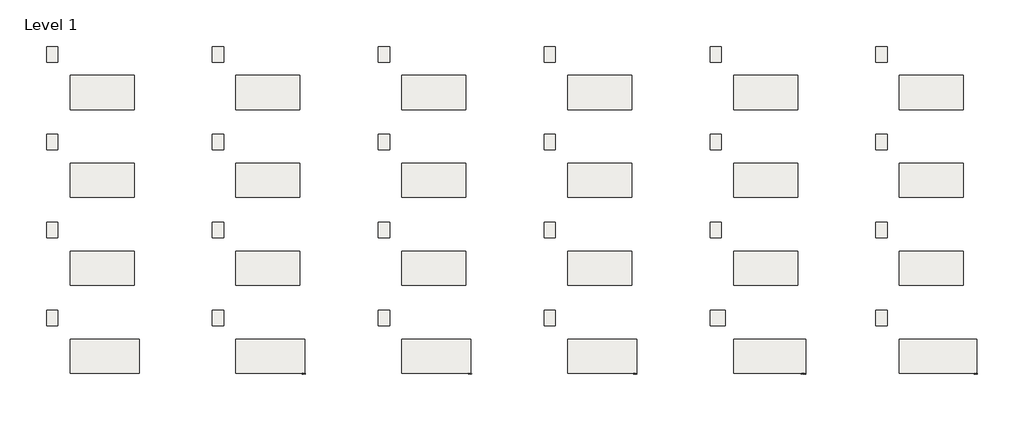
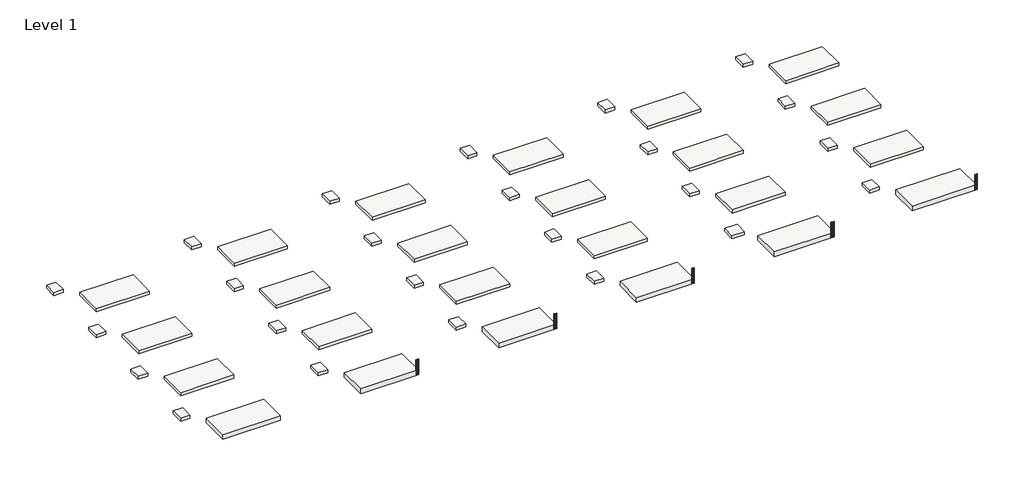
# One storey, incomplete: 48 slabs, 5 railings.
"""IFC4 building model written with IfcOpenShell, lengths in millimetres."""

from ifc_helpers import new_model, si_unit, origin, place, context, project, spatial, faceted_brep, transform, mapped, element, save
from components import viva_baluster_corner_metal_picket_or1_133d1216, viva_baluster_corner_metal_picket_or1_06276dca, viva_baluster_corner_metal_picket_or1_3f157a00, viva_baluster_corner_metal_picket_or2_3bf7f570, viva_baluster_corner_metal_picket_or2_038a49f5, viva_baluster_corner_metal_picket_or2_d11bb3fe, viva_baluster_corner_metal_picket_or3_238191d5, viva_baluster_corner_metal_picket_or3_b6fd80f2, viva_baluster_corner_metal_picket_or4_cd2baefe, viva_baluster_corner_metal_picket_or4_ba183751, viva_baluster_corner_metal_picket_or4_408f65ec, viva_baluster_corner_metal_picket_or4_8cd8b7c1, viva_baluster_corner_metal_picket_or5_769cadf6, viva_baluster_corner_metal_picket_or5_7f4c381b, viva_baluster_corner_metal_picket_or5_473d95c6

model = new_model("IFC4")

# Units and contexts
model_context = context("Model", 3, world=origin())
ifc_project = project(units=[si_unit("LENGTHUNIT", "METRE", prefix="MILLI")], contexts=[model_context])

# Site, building, storey
site = spatial("IfcSite", under=ifc_project)
building = spatial("IfcBuilding", under=site)
storey = spatial("IfcBuildingStorey", under=building, Name="Level 1", Elevation=0.0)

# Railings
placement = place(None, origin())
viva_baluster_corner_metal_picket_or1_shape = viva_baluster_corner_metal_picket_or1_133d1216(model_context)
viva_baluster_corner_metal_picket_or1_2_shape = viva_baluster_corner_metal_picket_or1_06276dca(model_context)
viva_baluster_corner_metal_picket_or1_3_shape = viva_baluster_corner_metal_picket_or1_3f157a00(model_context)
element("IfcRailing", 1, ObjectType="VIVA-Baluster-Corner-Metal_Picket : OR1", at=placement, inside=storey, context=model_context, shape_type="MappedRepresentation", body=[
    mapped(viva_baluster_corner_metal_picket_or1_shape, transform((17145.390109, -20977.8416701, -155.5524983), x_axis=(0.0, 1.0, 0.0), y_axis=(-1.0, 0.0, 0.0), z_axis=(0.0, 0.0, 1.0))),
    mapped(viva_baluster_corner_metal_picket_or1_2_shape, transform((17145.390109, -20977.8416701, -155.5524983), x_axis=(0.0, 1.0, 0.0), y_axis=(-1.0, 0.0, 0.0), z_axis=(0.0, 0.0, 1.0))),
    mapped(viva_baluster_corner_metal_picket_or1_3_shape, transform((17145.390109, -20977.8416701, -155.5524983), x_axis=(0.0, 1.0, 0.0), y_axis=(-1.0, 0.0, 0.0), z_axis=(0.0, 0.0, 1.0))),
])
viva_baluster_corner_metal_picket_or2_shape = viva_baluster_corner_metal_picket_or2_3bf7f570(model_context)
viva_baluster_corner_metal_picket_or2_2_shape = viva_baluster_corner_metal_picket_or2_038a49f5(model_context)
viva_baluster_corner_metal_picket_or2_3_shape = viva_baluster_corner_metal_picket_or2_d11bb3fe(model_context)
element("IfcRailing", 2, ObjectType="VIVA-Baluster-Corner-Metal_Picket : OR2", at=placement, inside=storey, context=model_context, shape_type="MappedRepresentation", body=[
    mapped(viva_baluster_corner_metal_picket_or2_shape, transform((29788.740109, -20977.8416701, -155.5524983), x_axis=(0.0, 1.0, 0.0), y_axis=(-1.0, 0.0, 0.0), z_axis=(0.0, 0.0, 1.0))),
    mapped(viva_baluster_corner_metal_picket_or2_2_shape, transform((29788.740109, -20977.8416701, -155.5524983), x_axis=(0.0, 1.0, 0.0), y_axis=(-1.0, 0.0, 0.0), z_axis=(0.0, 0.0, 1.0))),
    mapped(viva_baluster_corner_metal_picket_or2_3_shape, transform((29788.740109, -20977.8416701, -155.5524983), x_axis=(0.0, 1.0, 0.0), y_axis=(-1.0, 0.0, 0.0), z_axis=(0.0, 0.0, 1.0))),
])
viva_baluster_corner_metal_picket_or3_shape = viva_baluster_corner_metal_picket_or3_238191d5(model_context)
viva_baluster_corner_metal_picket_or3_2_shape = viva_baluster_corner_metal_picket_or3_b6fd80f2(model_context)
element("IfcRailing", 3, ObjectType="VIVA-Baluster-Corner-Metal_Picket : OR3", at=placement, inside=storey, context=model_context, shape_type="MappedRepresentation", body=[
    mapped(viva_baluster_corner_metal_picket_or3_shape, transform((42434.765109, -20977.8416701, -155.5524983), x_axis=(0.0, 1.0, 0.0), y_axis=(-1.0, 0.0, 0.0), z_axis=(0.0, 0.0, 1.0))),
    mapped(viva_baluster_corner_metal_picket_or3_2_shape, transform((42434.765109, -20977.8416701, -155.5524983), x_axis=(0.0, 1.0, 0.0), y_axis=(-1.0, 0.0, 0.0), z_axis=(0.0, 0.0, 1.0))),
    mapped(viva_baluster_corner_metal_picket_or1_3_shape, transform((42434.765109, -20977.8416701, -155.5524983), x_axis=(0.0, 1.0, 0.0), y_axis=(-1.0, 0.0, 0.0), z_axis=(0.0, 0.0, 1.0))),
])
viva_baluster_corner_metal_picket_or4_shape = viva_baluster_corner_metal_picket_or4_cd2baefe(model_context)
viva_baluster_corner_metal_picket_or4_2_shape = viva_baluster_corner_metal_picket_or4_ba183751(model_context)
viva_baluster_corner_metal_picket_or4_3_shape = viva_baluster_corner_metal_picket_or4_408f65ec(model_context)
viva_baluster_corner_metal_picket_or4_4_shape = viva_baluster_corner_metal_picket_or4_8cd8b7c1(model_context)
element("IfcRailing", 4, ObjectType="VIVA-Baluster-Corner-Metal_Picket : OR4", at=placement, inside=storey, context=model_context, shape_type="MappedRepresentation", body=[
    mapped(viva_baluster_corner_metal_picket_or4_shape, transform((55295.6847258, -20977.8416701, -155.5524983), x_axis=(0.0, 1.0, 0.0), y_axis=(-1.0, 0.0, 0.0), z_axis=(0.0, 0.0, 1.0))),
    mapped(viva_baluster_corner_metal_picket_or4_2_shape, transform((55295.6847258, -20977.8416701, -155.5524983), x_axis=(0.0, 1.0, 0.0), y_axis=(-1.0, 0.0, 0.0), z_axis=(0.0, 0.0, 1.0))),
    mapped(viva_baluster_corner_metal_picket_or4_3_shape, transform((55295.6847258, -20977.8416701, -155.5524983), x_axis=(0.0, 1.0, 0.0), y_axis=(-1.0, 0.0, 0.0), z_axis=(0.0, 0.0, 1.0))),
    mapped(viva_baluster_corner_metal_picket_or4_4_shape, transform((55295.6847258, -20977.8416701, -155.5524983), x_axis=(0.0, 1.0, 0.0), y_axis=(-1.0, 0.0, 0.0), z_axis=(0.0, 0.0, 1.0))),
])
viva_baluster_corner_metal_picket_or5_shape = viva_baluster_corner_metal_picket_or5_769cadf6(model_context)
viva_baluster_corner_metal_picket_or5_2_shape = viva_baluster_corner_metal_picket_or5_7f4c381b(model_context)
viva_baluster_corner_metal_picket_or5_3_shape = viva_baluster_corner_metal_picket_or5_473d95c6(model_context)
element("IfcRailing", 5, ObjectType="VIVA-Baluster-Corner-Metal_Picket : OR5", at=placement, inside=storey, context=model_context, shape_type="MappedRepresentation", body=[
    mapped(viva_baluster_corner_metal_picket_or5_shape, transform((68476.115109, -20977.8416701, -155.5524983), x_axis=(0.0, 1.0, 0.0), y_axis=(-1.0, 0.0, 0.0), z_axis=(0.0, 0.0, 1.0))),
    mapped(viva_baluster_corner_metal_picket_or5_2_shape, transform((68476.115109, -20977.8416701, -155.5524983), x_axis=(0.0, 1.0, 0.0), y_axis=(-1.0, 0.0, 0.0), z_axis=(0.0, 0.0, 1.0))),
    mapped(viva_baluster_corner_metal_picket_or5_3_shape, transform((68476.115109, -20977.8416701, -155.5524983), x_axis=(0.0, 1.0, 0.0), y_axis=(-1.0, 0.0, 0.0), z_axis=(0.0, 0.0, 1.0))),
])

# Slabs
element("IfcSlab", 6, ObjectType="_FLOOR 21", at=placement, inside=storey, context=model_context, shape_type="Brep", body=[
    faceted_brep([(4020.7958865, -7505.0920212, -292.1), (-856.0041135, -7505.0920212, -292.1), (-856.0041135, -4888.8920212, -292.1), (4020.7958865, -4888.8920212, -292.1), (4020.7958865, -7505.0920212, 0.0), (4020.7958865, -4888.8920212, 0.0), (-856.0041135, -4888.8920212, 0.0), (-856.0041135, -7505.0920212, 0.0)], [[[0, 1, 2, 3]], [[4, 5, 6, 7]], [[1, 0, 4, 7]], [[2, 1, 7, 6]], [[3, 2, 6, 5]], [[0, 3, 5, 4]]]),
])
element("IfcSlab", 7, ObjectType="_FLOOR 21", at=placement, inside=storey, context=model_context, shape_type="Brep", body=[
    faceted_brep([(-1787.3899939, -3883.4242977, -292.1), (-2650.9899939, -3883.4242977, -292.1), (-2650.9899939, -2701.8242977, -292.1), (-1787.3899939, -2701.8242977, -292.1), (-1787.3899939, -3883.4242977, 0.0), (-1787.3899939, -2701.8242977, 0.0), (-2650.9899939, -2701.8242977, 0.0), (-2650.9899939, -3883.4242977, 0.0)], [[[0, 1, 2, 3]], [[4, 5, 6, 7]], [[1, 0, 4, 7]], [[2, 1, 7, 6]], [[3, 2, 6, 5]], [[0, 3, 5, 4]]]),
])
element("IfcSlab", 8, ObjectType="_FLOOR 21", at=placement, inside=storey, context=model_context, shape_type="Brep", body=[
    faceted_brep([(-1787.3899939, 2822.1757023, -292.1), (-2650.9899939, 2822.1757023, -292.1), (-2650.9899939, 4003.7757023, -292.1), (-1787.3899939, 4003.7757023, -292.1), (-1787.3899939, 2822.1757023, 0.0), (-1787.3899939, 4003.7757023, 0.0), (-2650.9899939, 4003.7757023, 0.0), (-2650.9899939, 2822.1757023, 0.0)], [[[0, 1, 2, 3]], [[4, 5, 6, 7]], [[1, 0, 4, 7]], [[2, 1, 7, 6]], [[3, 2, 6, 5]], [[0, 3, 5, 4]]]),
])
element("IfcSlab", 9, ObjectType="_FLOOR 21", at=placement, inside=storey, context=model_context, shape_type="Brep", body=[
    faceted_brep([(4020.7958865, -799.4920212, -292.1), (-856.0041135, -799.4920212, -292.1), (-856.0041135, 1816.7079788, -292.1), (4020.7958865, 1816.7079788, -292.1), (4020.7958865, -799.4920212, 0.0), (4020.7958865, 1816.7079788, 0.0), (-856.0041135, 1816.7079788, 0.0), (-856.0041135, -799.4920212, 0.0)], [[[0, 1, 2, 3]], [[4, 5, 6, 7]], [[1, 0, 4, 7]], [[2, 1, 7, 6]], [[3, 2, 6, 5]], [[0, 3, 5, 4]]]),
])
element("IfcSlab", 10, ObjectType="_FLOOR 21", at=placement, inside=storey, context=model_context, shape_type="Brep", body=[
    faceted_brep([(4020.7958865, -14210.6920212, -292.1), (-856.0041135, -14210.6920212, -292.1), (-856.0041135, -11594.4920212, -292.1), (4020.7958865, -11594.4920212, -292.1), (4020.7958865, -14210.6920212, 0.0), (4020.7958865, -11594.4920212, 0.0), (-856.0041135, -11594.4920212, 0.0), (-856.0041135, -14210.6920212, 0.0)], [[[0, 1, 2, 3]], [[4, 5, 6, 7]], [[1, 0, 4, 7]], [[2, 1, 7, 6]], [[3, 2, 6, 5]], [[0, 3, 5, 4]]]),
])
element("IfcSlab", 11, ObjectType="_FLOOR 21", at=placement, inside=storey, context=model_context, shape_type="Brep", body=[
    faceted_brep([(-1787.3899939, -10589.0242977, -292.1), (-2650.9899939, -10589.0242977, -292.1), (-2650.9899939, -9407.4242977, -292.1), (-1787.3899939, -9407.4242977, -292.1), (-1787.3899939, -10589.0242977, 0.0), (-1787.3899939, -9407.4242977, 0.0), (-2650.9899939, -9407.4242977, 0.0), (-2650.9899939, -10589.0242977, 0.0)], [[[0, 1, 2, 3]], [[4, 5, 6, 7]], [[1, 0, 4, 7]], [[2, 1, 7, 6]], [[3, 2, 6, 5]], [[0, 3, 5, 4]]]),
])
element("IfcSlab", 12, ObjectType="_FLOOR 21", at=placement, inside=storey, context=model_context, shape_type="Brep", body=[
    faceted_brep([(-1787.3899939, -17294.6242977, -292.1), (-2650.9899939, -17294.6242977, -292.1), (-2650.9899939, -16113.0242977, -292.1), (-1787.3899939, -16113.0242977, -292.1), (-1787.3899939, -17294.6242977, 0.0), (-1787.3899939, -16113.0242977, 0.0), (-2650.9899939, -16113.0242977, 0.0), (-2650.9899939, -17294.6242977, 0.0)], [[[0, 1, 2, 3]], [[4, 5, 6, 7]], [[1, 0, 4, 7]], [[2, 1, 7, 6]], [[3, 2, 6, 5]], [[0, 3, 5, 4]]]),
])
element("IfcSlab", 13, ObjectType="_FLOOR 21", at=placement, inside=storey, context=model_context, shape_type="Brep", body=[
    faceted_brep([(16669.9958865, -7505.0920212, -292.1), (11793.1958865, -7505.0920212, -292.1), (11793.1958865, -4888.8920212, -292.1), (16669.9958865, -4888.8920212, -292.1), (16669.9958865, -7505.0920212, 0.0), (16669.9958865, -4888.8920212, 0.0), (11793.1958865, -4888.8920212, 0.0), (11793.1958865, -7505.0920212, 0.0)], [[[0, 1, 2, 3]], [[4, 5, 6, 7]], [[1, 0, 4, 7]], [[2, 1, 7, 6]], [[3, 2, 6, 5]], [[0, 3, 5, 4]]]),
])
element("IfcSlab", 14, ObjectType="_FLOOR 21", at=placement, inside=storey, context=model_context, shape_type="Brep", body=[
    faceted_brep([(10861.8100061, -3883.4242977, -292.1), (9998.2100061, -3883.4242977, -292.1), (9998.2100061, -2701.8242977, -292.1), (10861.8100061, -2701.8242977, -292.1), (10861.8100061, -3883.4242977, 0.0), (10861.8100061, -2701.8242977, 0.0), (9998.2100061, -2701.8242977, 0.0), (9998.2100061, -3883.4242977, 0.0)], [[[0, 1, 2, 3]], [[4, 5, 6, 7]], [[1, 0, 4, 7]], [[2, 1, 7, 6]], [[3, 2, 6, 5]], [[0, 3, 5, 4]]]),
])
element("IfcSlab", 15, ObjectType="_FLOOR 21", at=placement, inside=storey, context=model_context, shape_type="Brep", body=[
    faceted_brep([(10861.8100061, 2822.1757023, -292.1), (9998.2100061, 2822.1757023, -292.1), (9998.2100061, 4003.7757023, -292.1), (10861.8100061, 4003.7757023, -292.1), (10861.8100061, 2822.1757023, 0.0), (10861.8100061, 4003.7757023, 0.0), (9998.2100061, 4003.7757023, 0.0), (9998.2100061, 2822.1757023, 0.0)], [[[0, 1, 2, 3]], [[4, 5, 6, 7]], [[1, 0, 4, 7]], [[2, 1, 7, 6]], [[3, 2, 6, 5]], [[0, 3, 5, 4]]]),
])
element("IfcSlab", 16, ObjectType="_FLOOR 21", at=placement, inside=storey, context=model_context, shape_type="Brep", body=[
    faceted_brep([(16669.9958865, -799.4920212, -292.1), (11793.1958865, -799.4920212, -292.1), (11793.1958865, 1816.7079788, -292.1), (16669.9958865, 1816.7079788, -292.1), (16669.9958865, -799.4920212, 0.0), (16669.9958865, 1816.7079788, 0.0), (11793.1958865, 1816.7079788, 0.0), (11793.1958865, -799.4920212, 0.0)], [[[0, 1, 2, 3]], [[4, 5, 6, 7]], [[1, 0, 4, 7]], [[2, 1, 7, 6]], [[3, 2, 6, 5]], [[0, 3, 5, 4]]]),
])
element("IfcSlab", 17, ObjectType="_FLOOR 21", at=placement, inside=storey, context=model_context, shape_type="Brep", body=[
    faceted_brep([(16669.9958865, -14210.6920212, -292.1), (11793.1958865, -14210.6920212, -292.1), (11793.1958865, -11594.4920212, -292.1), (16669.9958865, -11594.4920212, -292.1), (16669.9958865, -14210.6920212, 0.0), (16669.9958865, -11594.4920212, 0.0), (11793.1958865, -11594.4920212, 0.0), (11793.1958865, -14210.6920212, 0.0)], [[[0, 1, 2, 3]], [[4, 5, 6, 7]], [[1, 0, 4, 7]], [[2, 1, 7, 6]], [[3, 2, 6, 5]], [[0, 3, 5, 4]]]),
])
element("IfcSlab", 18, ObjectType="_FLOOR 21", at=placement, inside=storey, context=model_context, shape_type="Brep", body=[
    faceted_brep([(10861.8100061, -10589.0242977, -292.1), (9998.2100061, -10589.0242977, -292.1), (9998.2100061, -9407.4242977, -292.1), (10861.8100061, -9407.4242977, -292.1), (10861.8100061, -10589.0242977, 0.0), (10861.8100061, -9407.4242977, 0.0), (9998.2100061, -9407.4242977, 0.0), (9998.2100061, -10589.0242977, 0.0)], [[[0, 1, 2, 3]], [[4, 5, 6, 7]], [[1, 0, 4, 7]], [[2, 1, 7, 6]], [[3, 2, 6, 5]], [[0, 3, 5, 4]]]),
])
element("IfcSlab", 19, ObjectType="_FLOOR 21", at=placement, inside=storey, context=model_context, shape_type="Brep", body=[
    faceted_brep([(10861.8100061, -17294.6242977, -292.1), (9998.2100061, -17294.6242977, -292.1), (9998.2100061, -16113.0242977, -292.1), (10861.8100061, -16113.0242977, -292.1), (10861.8100061, -17294.6242977, 0.0), (10861.8100061, -16113.0242977, 0.0), (9998.2100061, -16113.0242977, 0.0), (9998.2100061, -17294.6242977, 0.0)], [[[0, 1, 2, 3]], [[4, 5, 6, 7]], [[1, 0, 4, 7]], [[2, 1, 7, 6]], [[3, 2, 6, 5]], [[0, 3, 5, 4]]]),
])
element("IfcSlab", 20, ObjectType="_FLOOR 21", at=placement, inside=storey, context=model_context, shape_type="Brep", body=[
    faceted_brep([(29319.1958865, -7505.0920212, -292.1), (24442.3958865, -7505.0920212, -292.1), (24442.3958865, -4888.8920212, -292.1), (29319.1958865, -4888.8920212, -292.1), (29319.1958865, -7505.0920212, 0.0), (29319.1958865, -4888.8920212, 0.0), (24442.3958865, -4888.8920212, 0.0), (24442.3958865, -7505.0920212, 0.0)], [[[0, 1, 2, 3]], [[4, 5, 6, 7]], [[1, 0, 4, 7]], [[2, 1, 7, 6]], [[3, 2, 6, 5]], [[0, 3, 5, 4]]]),
])
element("IfcSlab", 21, ObjectType="_FLOOR 21", at=placement, inside=storey, context=model_context, shape_type="Brep", body=[
    faceted_brep([(23511.0100061, -3883.4242977, -292.1), (22647.4100061, -3883.4242977, -292.1), (22647.4100061, -2701.8242977, -292.1), (23511.0100061, -2701.8242977, -292.1), (23511.0100061, -3883.4242977, 0.0), (23511.0100061, -2701.8242977, 0.0), (22647.4100061, -2701.8242977, 0.0), (22647.4100061, -3883.4242977, 0.0)], [[[0, 1, 2, 3]], [[4, 5, 6, 7]], [[1, 0, 4, 7]], [[2, 1, 7, 6]], [[3, 2, 6, 5]], [[0, 3, 5, 4]]]),
])
element("IfcSlab", 22, ObjectType="_FLOOR 21", at=placement, inside=storey, context=model_context, shape_type="Brep", body=[
    faceted_brep([(23511.0100061, 2822.1757023, -292.1), (22647.4100061, 2822.1757023, -292.1), (22647.4100061, 4003.7757023, -292.1), (23511.0100061, 4003.7757023, -292.1), (23511.0100061, 2822.1757023, 0.0), (23511.0100061, 4003.7757023, 0.0), (22647.4100061, 4003.7757023, 0.0), (22647.4100061, 2822.1757023, 0.0)], [[[0, 1, 2, 3]], [[4, 5, 6, 7]], [[1, 0, 4, 7]], [[2, 1, 7, 6]], [[3, 2, 6, 5]], [[0, 3, 5, 4]]]),
])
element("IfcSlab", 23, ObjectType="_FLOOR 21", at=placement, inside=storey, context=model_context, shape_type="Brep", body=[
    faceted_brep([(29319.1958865, -799.4920212, -292.1), (24442.3958865, -799.4920212, -292.1), (24442.3958865, 1816.7079788, -292.1), (29319.1958865, 1816.7079788, -292.1), (29319.1958865, -799.4920212, 0.0), (29319.1958865, 1816.7079788, 0.0), (24442.3958865, 1816.7079788, 0.0), (24442.3958865, -799.4920212, 0.0)], [[[0, 1, 2, 3]], [[4, 5, 6, 7]], [[1, 0, 4, 7]], [[2, 1, 7, 6]], [[3, 2, 6, 5]], [[0, 3, 5, 4]]]),
])
element("IfcSlab", 24, ObjectType="_FLOOR 21", at=placement, inside=storey, context=model_context, shape_type="Brep", body=[
    faceted_brep([(29319.1958865, -14210.6920212, -292.1), (24442.3958865, -14210.6920212, -292.1), (24442.3958865, -11594.4920212, -292.1), (29319.1958865, -11594.4920212, -292.1), (29319.1958865, -14210.6920212, 0.0), (29319.1958865, -11594.4920212, 0.0), (24442.3958865, -11594.4920212, 0.0), (24442.3958865, -14210.6920212, 0.0)], [[[0, 1, 2, 3]], [[4, 5, 6, 7]], [[1, 0, 4, 7]], [[2, 1, 7, 6]], [[3, 2, 6, 5]], [[0, 3, 5, 4]]]),
])
element("IfcSlab", 25, ObjectType="_FLOOR 21", at=placement, inside=storey, context=model_context, shape_type="Brep", body=[
    faceted_brep([(23511.0100061, -10589.0242977, -292.1), (22647.4100061, -10589.0242977, -292.1), (22647.4100061, -9407.4242977, -292.1), (23511.0100061, -9407.4242977, -292.1), (23511.0100061, -10589.0242977, 0.0), (23511.0100061, -9407.4242977, 0.0), (22647.4100061, -9407.4242977, 0.0), (22647.4100061, -10589.0242977, 0.0)], [[[0, 1, 2, 3]], [[4, 5, 6, 7]], [[1, 0, 4, 7]], [[2, 1, 7, 6]], [[3, 2, 6, 5]], [[0, 3, 5, 4]]]),
])
element("IfcSlab", 26, ObjectType="_FLOOR 21", at=placement, inside=storey, context=model_context, shape_type="Brep", body=[
    faceted_brep([(23511.0100061, -17294.6242977, -292.1), (22647.4100061, -17294.6242977, -292.1), (22647.4100061, -16113.0242977, -292.1), (23511.0100061, -16113.0242977, -292.1), (23511.0100061, -17294.6242977, 0.0), (23511.0100061, -16113.0242977, 0.0), (22647.4100061, -16113.0242977, 0.0), (22647.4100061, -17294.6242977, 0.0)], [[[0, 1, 2, 3]], [[4, 5, 6, 7]], [[1, 0, 4, 7]], [[2, 1, 7, 6]], [[3, 2, 6, 5]], [[0, 3, 5, 4]]]),
])
element("IfcSlab", 27, ObjectType="_FLOOR 21", at=placement, inside=storey, context=model_context, shape_type="Brep", body=[
    faceted_brep([(41968.3958865, -7505.0920212, -292.1), (37091.5958865, -7505.0920212, -292.1), (37091.5958865, -4888.8920212, -292.1), (41968.3958865, -4888.8920212, -292.1), (41968.3958865, -7505.0920212, 0.0), (41968.3958865, -4888.8920212, 0.0), (37091.5958865, -4888.8920212, 0.0), (37091.5958865, -7505.0920212, 0.0)], [[[0, 1, 2, 3]], [[4, 5, 6, 7]], [[1, 0, 4, 7]], [[2, 1, 7, 6]], [[3, 2, 6, 5]], [[0, 3, 5, 4]]]),
])
element("IfcSlab", 28, ObjectType="_FLOOR 21", at=placement, inside=storey, context=model_context, shape_type="Brep", body=[
    faceted_brep([(36160.2100061, -3883.4242977, -292.1), (35296.6100061, -3883.4242977, -292.1), (35296.6100061, -2701.8242977, -292.1), (36160.2100061, -2701.8242977, -292.1), (36160.2100061, -3883.4242977, 0.0), (36160.2100061, -2701.8242977, 0.0), (35296.6100061, -2701.8242977, 0.0), (35296.6100061, -3883.4242977, 0.0)], [[[0, 1, 2, 3]], [[4, 5, 6, 7]], [[1, 0, 4, 7]], [[2, 1, 7, 6]], [[3, 2, 6, 5]], [[0, 3, 5, 4]]]),
])
element("IfcSlab", 29, ObjectType="_FLOOR 21", at=placement, inside=storey, context=model_context, shape_type="Brep", body=[
    faceted_brep([(36160.2100061, 2822.1757023, -292.1), (35296.6100061, 2822.1757023, -292.1), (35296.6100061, 4003.7757023, -292.1), (36160.2100061, 4003.7757023, -292.1), (36160.2100061, 2822.1757023, 0.0), (36160.2100061, 4003.7757023, 0.0), (35296.6100061, 4003.7757023, 0.0), (35296.6100061, 2822.1757023, 0.0)], [[[0, 1, 2, 3]], [[4, 5, 6, 7]], [[1, 0, 4, 7]], [[2, 1, 7, 6]], [[3, 2, 6, 5]], [[0, 3, 5, 4]]]),
])
element("IfcSlab", 30, ObjectType="_FLOOR 21", at=placement, inside=storey, context=model_context, shape_type="Brep", body=[
    faceted_brep([(41968.3958865, -799.4920212, -292.1), (37091.5958865, -799.4920212, -292.1), (37091.5958865, 1816.7079788, -292.1), (41968.3958865, 1816.7079788, -292.1), (41968.3958865, -799.4920212, 0.0), (41968.3958865, 1816.7079788, 0.0), (37091.5958865, 1816.7079788, 0.0), (37091.5958865, -799.4920212, 0.0)], [[[0, 1, 2, 3]], [[4, 5, 6, 7]], [[1, 0, 4, 7]], [[2, 1, 7, 6]], [[3, 2, 6, 5]], [[0, 3, 5, 4]]]),
])
element("IfcSlab", 31, ObjectType="_FLOOR 21", at=placement, inside=storey, context=model_context, shape_type="Brep", body=[
    faceted_brep([(41968.3958865, -14210.6920212, -292.1), (37091.5958865, -14210.6920212, -292.1), (37091.5958865, -11594.4920212, -292.1), (41968.3958865, -11594.4920212, -292.1), (41968.3958865, -14210.6920212, 0.0), (41968.3958865, -11594.4920212, 0.0), (37091.5958865, -11594.4920212, 0.0), (37091.5958865, -14210.6920212, 0.0)], [[[0, 1, 2, 3]], [[4, 5, 6, 7]], [[1, 0, 4, 7]], [[2, 1, 7, 6]], [[3, 2, 6, 5]], [[0, 3, 5, 4]]]),
])
element("IfcSlab", 32, ObjectType="_FLOOR 21", at=placement, inside=storey, context=model_context, shape_type="Brep", body=[
    faceted_brep([(36160.2100061, -10589.0242977, -292.1), (35296.6100061, -10589.0242977, -292.1), (35296.6100061, -9407.4242977, -292.1), (36160.2100061, -9407.4242977, -292.1), (36160.2100061, -10589.0242977, 0.0), (36160.2100061, -9407.4242977, 0.0), (35296.6100061, -9407.4242977, 0.0), (35296.6100061, -10589.0242977, 0.0)], [[[0, 1, 2, 3]], [[4, 5, 6, 7]], [[1, 0, 4, 7]], [[2, 1, 7, 6]], [[3, 2, 6, 5]], [[0, 3, 5, 4]]]),
])
element("IfcSlab", 33, ObjectType="_FLOOR 21", at=placement, inside=storey, context=model_context, shape_type="Brep", body=[
    faceted_brep([(36160.2100061, -17294.6242977, -292.1), (35296.6100061, -17294.6242977, -292.1), (35296.6100061, -16113.0242977, -292.1), (36160.2100061, -16113.0242977, -292.1), (36160.2100061, -17294.6242977, 0.0), (36160.2100061, -16113.0242977, 0.0), (35296.6100061, -16113.0242977, 0.0), (35296.6100061, -17294.6242977, 0.0)], [[[0, 1, 2, 3]], [[4, 5, 6, 7]], [[1, 0, 4, 7]], [[2, 1, 7, 6]], [[3, 2, 6, 5]], [[0, 3, 5, 4]]]),
])
element("IfcSlab", 34, ObjectType="_FLOOR 21", at=placement, inside=storey, context=model_context, shape_type="Brep", body=[
    faceted_brep([(48809.4100061, 2822.1757023, -292.1), (47945.8100061, 2822.1757023, -292.1), (47945.8100061, 4003.7757023, -292.1), (48809.4100061, 4003.7757023, -292.1), (48809.4100061, 2822.1757023, 0.0), (48809.4100061, 4003.7757023, 0.0), (47945.8100061, 4003.7757023, 0.0), (47945.8100061, 2822.1757023, 0.0)], [[[0, 1, 2, 3]], [[4, 5, 6, 7]], [[1, 0, 4, 7]], [[2, 1, 7, 6]], [[3, 2, 6, 5]], [[0, 3, 5, 4]]]),
])
element("IfcSlab", 35, ObjectType="_FLOOR 21", at=placement, inside=storey, context=model_context, shape_type="Brep", body=[
    faceted_brep([(54617.5958865, -799.4920212, -292.1), (49740.7958865, -799.4920212, -292.1), (49740.7958865, 1816.7079788, -292.1), (54617.5958865, 1816.7079788, -292.1), (54617.5958865, -799.4920212, 0.0), (54617.5958865, 1816.7079788, 0.0), (49740.7958865, 1816.7079788, 0.0), (49740.7958865, -799.4920212, 0.0)], [[[0, 1, 2, 3]], [[4, 5, 6, 7]], [[1, 0, 4, 7]], [[2, 1, 7, 6]], [[3, 2, 6, 5]], [[0, 3, 5, 4]]]),
])
element("IfcSlab", 36, ObjectType="_FLOOR 21", at=placement, inside=storey, context=model_context, shape_type="Brep", body=[
    faceted_brep([(61458.6100061, 2822.1757023, -292.1), (60595.0100061, 2822.1757023, -292.1), (60595.0100061, 4003.7757023, -292.1), (61458.6100061, 4003.7757023, -292.1), (61458.6100061, 2822.1757023, 0.0), (61458.6100061, 4003.7757023, 0.0), (60595.0100061, 4003.7757023, 0.0), (60595.0100061, 2822.1757023, 0.0)], [[[0, 1, 2, 3]], [[4, 5, 6, 7]], [[1, 0, 4, 7]], [[2, 1, 7, 6]], [[3, 2, 6, 5]], [[0, 3, 5, 4]]]),
])
element("IfcSlab", 37, ObjectType="_FLOOR 21", at=placement, inside=storey, context=model_context, shape_type="Brep", body=[
    faceted_brep([(67266.7958865, -799.4920212, -292.1), (62389.9958865, -799.4920212, -292.1), (62389.9958865, 1816.7079788, -292.1), (67266.7958865, 1816.7079788, -292.1), (67266.7958865, -799.4920212, 0.0), (67266.7958865, 1816.7079788, 0.0), (62389.9958865, 1816.7079788, 0.0), (62389.9958865, -799.4920212, 0.0)], [[[0, 1, 2, 3]], [[4, 5, 6, 7]], [[1, 0, 4, 7]], [[2, 1, 7, 6]], [[3, 2, 6, 5]], [[0, 3, 5, 4]]]),
])
element("IfcSlab", 38, ObjectType="_FLOOR 21", at=placement, inside=storey, context=model_context, shape_type="Brep", body=[
    faceted_brep([(48809.4100061, -3883.4242977, -292.1), (47945.8100061, -3883.4242977, -292.1), (47945.8100061, -2701.8242977, -292.1), (48809.4100061, -2701.8242977, -292.1), (48809.4100061, -3883.4242977, 0.0), (48809.4100061, -2701.8242977, 0.0), (47945.8100061, -2701.8242977, 0.0), (47945.8100061, -3883.4242977, 0.0)], [[[0, 1, 2, 3]], [[4, 5, 6, 7]], [[1, 0, 4, 7]], [[2, 1, 7, 6]], [[3, 2, 6, 5]], [[0, 3, 5, 4]]]),
])
element("IfcSlab", 39, ObjectType="_FLOOR 21", at=placement, inside=storey, context=model_context, shape_type="Brep", body=[
    faceted_brep([(54617.5958865, -7505.0920212, -292.1), (49740.7958865, -7505.0920212, -292.1), (49740.7958865, -4888.8920212, -292.1), (54617.5958865, -4888.8920212, -292.1), (54617.5958865, -7505.0920212, 0.0), (54617.5958865, -4888.8920212, 0.0), (49740.7958865, -4888.8920212, 0.0), (49740.7958865, -7505.0920212, 0.0)], [[[0, 1, 2, 3]], [[4, 5, 6, 7]], [[1, 0, 4, 7]], [[2, 1, 7, 6]], [[3, 2, 6, 5]], [[0, 3, 5, 4]]]),
])
element("IfcSlab", 40, ObjectType="_FLOOR 21", at=placement, inside=storey, context=model_context, shape_type="Brep", body=[
    faceted_brep([(61458.6100061, -3883.4242977, -292.1), (60595.0100061, -3883.4242977, -292.1), (60595.0100061, -2701.8242977, -292.1), (61458.6100061, -2701.8242977, -292.1), (61458.6100061, -3883.4242977, 0.0), (61458.6100061, -2701.8242977, 0.0), (60595.0100061, -2701.8242977, 0.0), (60595.0100061, -3883.4242977, 0.0)], [[[0, 1, 2, 3]], [[4, 5, 6, 7]], [[1, 0, 4, 7]], [[2, 1, 7, 6]], [[3, 2, 6, 5]], [[0, 3, 5, 4]]]),
])
element("IfcSlab", 41, ObjectType="_FLOOR 21", at=placement, inside=storey, context=model_context, shape_type="Brep", body=[
    faceted_brep([(67266.7958865, -7505.0920212, -292.1), (62389.9958865, -7505.0920212, -292.1), (62389.9958865, -4888.8920212, -292.1), (67266.7958865, -4888.8920212, -292.1), (67266.7958865, -7505.0920212, 0.0), (67266.7958865, -4888.8920212, 0.0), (62389.9958865, -4888.8920212, 0.0), (62389.9958865, -7505.0920212, 0.0)], [[[0, 1, 2, 3]], [[4, 5, 6, 7]], [[1, 0, 4, 7]], [[2, 1, 7, 6]], [[3, 2, 6, 5]], [[0, 3, 5, 4]]]),
])
element("IfcSlab", 42, ObjectType="_FLOOR 21", at=placement, inside=storey, context=model_context, shape_type="Brep", body=[
    faceted_brep([(48809.4100061, -10589.0242977, -292.1), (47945.8100061, -10589.0242977, -292.1), (47945.8100061, -9407.4242977, -292.1), (48809.4100061, -9407.4242977, -292.1), (48809.4100061, -10589.0242977, 0.0), (48809.4100061, -9407.4242977, 0.0), (47945.8100061, -9407.4242977, 0.0), (47945.8100061, -10589.0242977, 0.0)], [[[0, 1, 2, 3]], [[4, 5, 6, 7]], [[1, 0, 4, 7]], [[2, 1, 7, 6]], [[3, 2, 6, 5]], [[0, 3, 5, 4]]]),
])
element("IfcSlab", 43, ObjectType="_FLOOR 21", at=placement, inside=storey, context=model_context, shape_type="Brep", body=[
    faceted_brep([(54617.5958865, -14210.6920212, -292.1), (49740.7958865, -14210.6920212, -292.1), (49740.7958865, -11594.4920212, -292.1), (54617.5958865, -11594.4920212, -292.1), (54617.5958865, -14210.6920212, 0.0), (54617.5958865, -11594.4920212, 0.0), (49740.7958865, -11594.4920212, 0.0), (49740.7958865, -14210.6920212, 0.0)], [[[0, 1, 2, 3]], [[4, 5, 6, 7]], [[1, 0, 4, 7]], [[2, 1, 7, 6]], [[3, 2, 6, 5]], [[0, 3, 5, 4]]]),
])
element("IfcSlab", 44, ObjectType="_FLOOR 21", at=placement, inside=storey, context=model_context, shape_type="Brep", body=[
    faceted_brep([(61458.6100061, -10589.0242977, -292.1), (60595.0100061, -10589.0242977, -292.1), (60595.0100061, -9407.4242977, -292.1), (61458.6100061, -9407.4242977, -292.1), (61458.6100061, -10589.0242977, 0.0), (61458.6100061, -9407.4242977, 0.0), (60595.0100061, -9407.4242977, 0.0), (60595.0100061, -10589.0242977, 0.0)], [[[0, 1, 2, 3]], [[4, 5, 6, 7]], [[1, 0, 4, 7]], [[2, 1, 7, 6]], [[3, 2, 6, 5]], [[0, 3, 5, 4]]]),
])
element("IfcSlab", 45, ObjectType="_FLOOR 21", at=placement, inside=storey, context=model_context, shape_type="Brep", body=[
    faceted_brep([(67266.7958865, -14210.6920212, -292.1), (62389.9958865, -14210.6920212, -292.1), (62389.9958865, -11594.4920212, -292.1), (67266.7958865, -11594.4920212, -292.1), (67266.7958865, -14210.6920212, 0.0), (67266.7958865, -11594.4920212, 0.0), (62389.9958865, -11594.4920212, 0.0), (62389.9958865, -14210.6920212, 0.0)], [[[0, 1, 2, 3]], [[4, 5, 6, 7]], [[1, 0, 4, 7]], [[2, 1, 7, 6]], [[3, 2, 6, 5]], [[0, 3, 5, 4]]]),
])
element("IfcSlab", 46, ObjectType="_FLOOR 21", at=placement, inside=storey, context=model_context, shape_type="Brep", body=[
    faceted_brep([(49088.8100061, -17294.6242977, -292.1), (47945.8100061, -17294.6242977, -292.1), (47945.8100061, -16113.0242977, -292.1), (49088.8100061, -16113.0242977, -292.1), (49088.8100061, -17294.6242977, 0.0), (49088.8100061, -16113.0242977, 0.0), (47945.8100061, -16113.0242977, 0.0), (47945.8100061, -17294.6242977, 0.0)], [[[0, 1, 2, 3]], [[4, 5, 6, 7]], [[1, 0, 4, 7]], [[2, 1, 7, 6]], [[3, 2, 6, 5]], [[0, 3, 5, 4]]]),
])
element("IfcSlab", 47, ObjectType="_FLOOR 21", at=placement, inside=storey, context=model_context, shape_type="Brep", body=[
    faceted_brep([(61458.6100061, -17294.6242977, -292.1), (60595.0100061, -17294.6242977, -292.1), (60595.0100061, -16113.0242977, -292.1), (61458.6100061, -16113.0242977, -292.1), (61458.6100061, -17294.6242977, 0.0), (61458.6100061, -16113.0242977, 0.0), (60595.0100061, -16113.0242977, 0.0), (60595.0100061, -17294.6242977, 0.0)], [[[0, 1, 2, 3]], [[4, 5, 6, 7]], [[1, 0, 4, 7]], [[2, 1, 7, 6]], [[3, 2, 6, 5]], [[0, 3, 5, 4]]]),
])
element("IfcSlab", 48, ObjectType="_FLOOR 40", at=placement, inside=storey, context=model_context, shape_type="Brep", body=[
    faceted_brep([(4401.7958865, -20916.2920212, -457.2), (-856.0041135, -20916.2920212, -457.2), (-856.0041135, -18300.0920212, -457.2), (4401.7958865, -18300.0920212, -457.2), (4401.7958865, -20916.2920212, 0.0), (4401.7958865, -18300.0920212, 0.0), (-856.0041135, -18300.0920212, 0.0), (-856.0041135, -20916.2920212, 0.0)], [[[0, 1, 2, 3]], [[4, 5, 6, 7]], [[1, 0, 4, 7]], [[2, 1, 7, 6]], [[3, 2, 6, 5]], [[0, 3, 5, 4]]]),
])
element("IfcSlab", 49, ObjectType="_FLOOR 40", at=placement, inside=storey, context=model_context, shape_type="Brep", body=[
    faceted_brep([(17050.9958865, -20916.2920212, -457.2), (11793.1958865, -20916.2920212, -457.2), (11793.1958865, -18300.0920212, -457.2), (17050.9958865, -18300.0920212, -457.2), (17050.9958865, -20916.2920212, 0.0), (17050.9958865, -18300.0920212, 0.0), (11793.1958865, -18300.0920212, 0.0), (11793.1958865, -20916.2920212, 0.0)], [[[0, 1, 2, 3]], [[4, 5, 6, 7]], [[1, 0, 4, 7]], [[2, 1, 7, 6]], [[3, 2, 6, 5]], [[0, 3, 5, 4]]]),
])
element("IfcSlab", 50, ObjectType="_FLOOR 40", at=placement, inside=storey, context=model_context, shape_type="Brep", body=[
    faceted_brep([(29700.1958865, -20916.2920212, -457.2), (24442.3958865, -20916.2920212, -457.2), (24442.3958865, -18300.0920212, -457.2), (29700.1958865, -18300.0920212, -457.2), (29700.1958865, -20916.2920212, 0.0), (29700.1958865, -18300.0920212, 0.0), (24442.3958865, -18300.0920212, 0.0), (24442.3958865, -20916.2920212, 0.0)], [[[0, 1, 2, 3]], [[4, 5, 6, 7]], [[1, 0, 4, 7]], [[2, 1, 7, 6]], [[3, 2, 6, 5]], [[0, 3, 5, 4]]]),
])
element("IfcSlab", 51, ObjectType="_FLOOR 40", at=placement, inside=storey, context=model_context, shape_type="Brep", body=[
    faceted_brep([(42349.3958865, -20916.2920212, -457.2), (37091.5958865, -20916.2920212, -457.2), (37091.5958865, -18300.0920212, -457.2), (42349.3958865, -18300.0920212, -457.2), (42349.3958865, -20916.2920212, 0.0), (42349.3958865, -18300.0920212, 0.0), (37091.5958865, -18300.0920212, 0.0), (37091.5958865, -20916.2920212, 0.0)], [[[0, 1, 2, 3]], [[4, 5, 6, 7]], [[1, 0, 4, 7]], [[2, 1, 7, 6]], [[3, 2, 6, 5]], [[0, 3, 5, 4]]]),
])
element("IfcSlab", 52, ObjectType="_FLOOR 40", at=placement, inside=storey, context=model_context, shape_type="Brep", body=[
    faceted_brep([(55252.5958865, -20916.2920212, -457.2), (49740.7958865, -20916.2920212, -457.2), (49740.7958865, -18300.0920212, -457.2), (55252.5958865, -18300.0920212, -457.2), (55252.5958865, -20916.2920212, 0.0), (55252.5958865, -18300.0920212, 0.0), (49740.7958865, -18300.0920212, 0.0), (49740.7958865, -20916.2920212, 0.0)], [[[0, 1, 2, 3]], [[4, 5, 6, 7]], [[1, 0, 4, 7]], [[2, 1, 7, 6]], [[3, 2, 6, 5]], [[0, 3, 5, 4]]]),
])
element("IfcSlab", 53, ObjectType="_FLOOR 40", at=placement, inside=storey, context=model_context, shape_type="Brep", body=[
    faceted_brep([(68282.7958865, -20916.2920212, -457.2), (62389.9958865, -20916.2920212, -457.2), (62389.9958865, -18300.0920212, -457.2), (68282.7958865, -18300.0920212, -457.2), (68282.7958865, -20916.2920212, 0.0), (68282.7958865, -18300.0920212, 0.0), (62389.9958865, -18300.0920212, 0.0), (62389.9958865, -20916.2920212, 0.0)], [[[0, 1, 2, 3]], [[4, 5, 6, 7]], [[1, 0, 4, 7]], [[2, 1, 7, 6]], [[3, 2, 6, 5]], [[0, 3, 5, 4]]]),
])

save(model, "model.ifc")
